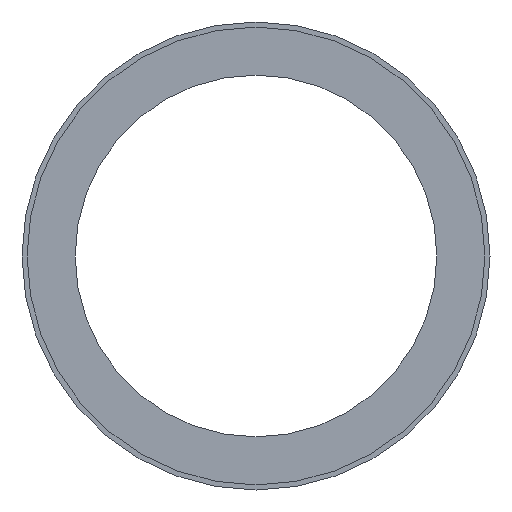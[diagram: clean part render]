
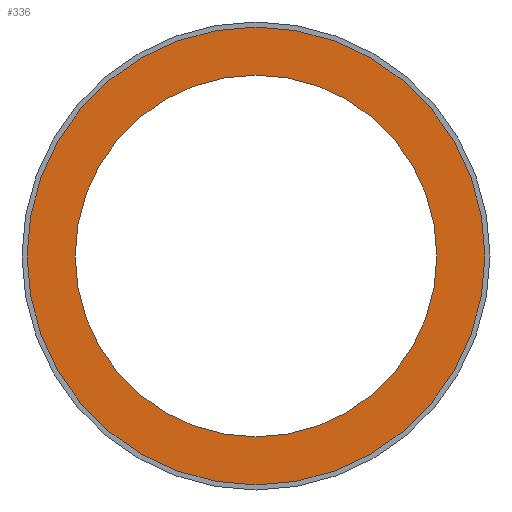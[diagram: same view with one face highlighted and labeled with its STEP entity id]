
A CAD part, front view. The second image highlights one B-rep face of the part: STEP entity #336.
In plain terms, the highlighted planar face has unit normal (0, -1, 0).
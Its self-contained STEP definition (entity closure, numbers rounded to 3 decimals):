
#42 = CIRCLE ( 'NONE', #4134, 202.5 ) ;
#43 = DIRECTION ( 'NONE',  ( 0., 0., -1. ) ) ;
#248 = EDGE_CURVE ( 'NONE', #2428, #2343, #5556, .T. ) ;
#336 = ADVANCED_FACE ( 'NONE', ( #4216, #5658 ), #4399, .F. ) ;
#340 = ORIENTED_EDGE ( 'NONE', *, *, #3940, .T. ) ;
#554 = CARTESIAN_POINT ( 'NONE',  ( 0., -50.5, -202.5 ) ) ;
#555 = DIRECTION ( 'NONE',  ( 0., 0., -1. ) ) ;
#656 = DIRECTION ( 'NONE',  ( 0., 0., -1. ) ) ;
#1742 = CIRCLE ( 'NONE', #5245, 160. ) ;
#1839 = DIRECTION ( 'NONE',  ( 0., 0., -1. ) ) ;
#2306 = CARTESIAN_POINT ( 'NONE',  ( 0., -50.5, 202.5 ) ) ;
#2343 = VERTEX_POINT ( 'NONE', #554 ) ;
#2428 = VERTEX_POINT ( 'NONE', #2306 ) ;
#2621 = ORIENTED_EDGE ( 'NONE', *, *, #6135, .F. ) ;
#2936 = DIRECTION ( 'NONE',  ( 0., -1., 0. ) ) ;
#3011 = AXIS2_PLACEMENT_3D ( 'NONE', #3671, #7276, #1839 ) ;
#3124 = VERTEX_POINT ( 'NONE', #4391 ) ;
#3209 = CARTESIAN_POINT ( 'NONE',  ( 0., -50.5, 160. ) ) ;
#3600 = CARTESIAN_POINT ( 'NONE',  ( 0., -50.5, 0. ) ) ;
#3631 = ORIENTED_EDGE ( 'NONE', *, *, #4046, .F. ) ;
#3671 = CARTESIAN_POINT ( 'NONE',  ( 0., -50.5, 0. ) ) ;
#3940 = EDGE_CURVE ( 'NONE', #2343, #2428, #42, .T. ) ;
#3943 = EDGE_LOOP ( 'NONE', ( #340, #6745 ) ) ;
#4046 = EDGE_CURVE ( 'NONE', #7559, #3124, #1742, .T. ) ;
#4134 = AXIS2_PLACEMENT_3D ( 'NONE', #3600, #2936, #555 ) ;
#4216 = FACE_BOUND ( 'NONE', #6812, .T. ) ;
#4297 = AXIS2_PLACEMENT_3D ( 'NONE', #6682, #4899, #43 ) ;
#4391 = CARTESIAN_POINT ( 'NONE',  ( 0., -50.5, -160. ) ) ;
#4399 = PLANE ( 'NONE',  #5275 ) ;
#4421 = DIRECTION ( 'NONE',  ( 0., 0., 1. ) ) ;
#4899 = DIRECTION ( 'NONE',  ( 0., -1., 0. ) ) ;
#5245 = AXIS2_PLACEMENT_3D ( 'NONE', #5580, #6192, #656 ) ;
#5275 = AXIS2_PLACEMENT_3D ( 'NONE', #6907, #6227, #4421 ) ;
#5505 = CIRCLE ( 'NONE', #3011, 160. ) ;
#5556 = CIRCLE ( 'NONE', #4297, 202.5 ) ;
#5580 = CARTESIAN_POINT ( 'NONE',  ( 0., -50.5, 0. ) ) ;
#5658 = FACE_OUTER_BOUND ( 'NONE', #3943, .T. ) ;
#6135 = EDGE_CURVE ( 'NONE', #3124, #7559, #5505, .T. ) ;
#6192 = DIRECTION ( 'NONE',  ( 0., -1., 0. ) ) ;
#6227 = DIRECTION ( 'NONE',  ( 0., 1., 0. ) ) ;
#6682 = CARTESIAN_POINT ( 'NONE',  ( 0., -50.5, 0. ) ) ;
#6745 = ORIENTED_EDGE ( 'NONE', *, *, #248, .T. ) ;
#6812 = EDGE_LOOP ( 'NONE', ( #2621, #3631 ) ) ;
#6907 = CARTESIAN_POINT ( 'NONE',  ( 0., -50.5, 160. ) ) ;
#7276 = DIRECTION ( 'NONE',  ( 0., -1., 0. ) ) ;
#7559 = VERTEX_POINT ( 'NONE', #3209 ) ;
